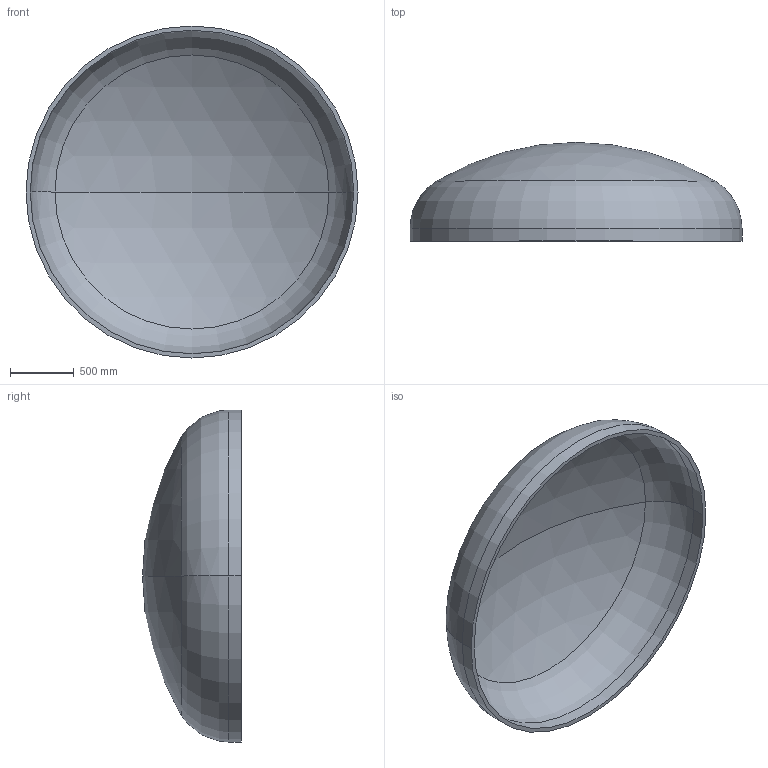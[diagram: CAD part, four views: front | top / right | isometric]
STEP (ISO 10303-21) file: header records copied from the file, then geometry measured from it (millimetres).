
FILE_DESCRIPTION (( 'STEP AP203' ), '1' );
FILE_NAME ('DIN 28013 Korbbogenform_-_Boden DIN 28013 - 2600 x 100 - I - s=33.step', '2016-07-01T16:06:29', ( '' ), ( '' ), 'SwSTEP 2.0', 'SolidWorks 2013', '' );
FILE_SCHEMA (( 'CONFIG_CONTROL_DESIGN' ));
Length unit declared in the file: millimetre
Products named in the file (1): DIN 28013 Korbbogenform_-_Boden DIN 28013 - 2600 x 100 - I - s=33
Bounding box: 2600 x 774 x 2600 mm (x, y, z)
Volume: 265187138.5 mm3; surface area: 16340350.3 mm2
Topology: 1 solids, 1 shells, 13 faces, 24 edges, 14 vertices
Faces by surface type: torus 4, cylinder 4, sphere 4, plane 1
Entity records: 407 total; most frequent: DIRECTION 72, CARTESIAN_POINT 52, ORIENTED_EDGE 48, AXIS2_PLACEMENT_3D 34, EDGE_CURVE 24, CIRCLE 20, EDGE_LOOP 14, VERTEX_POINT 14
